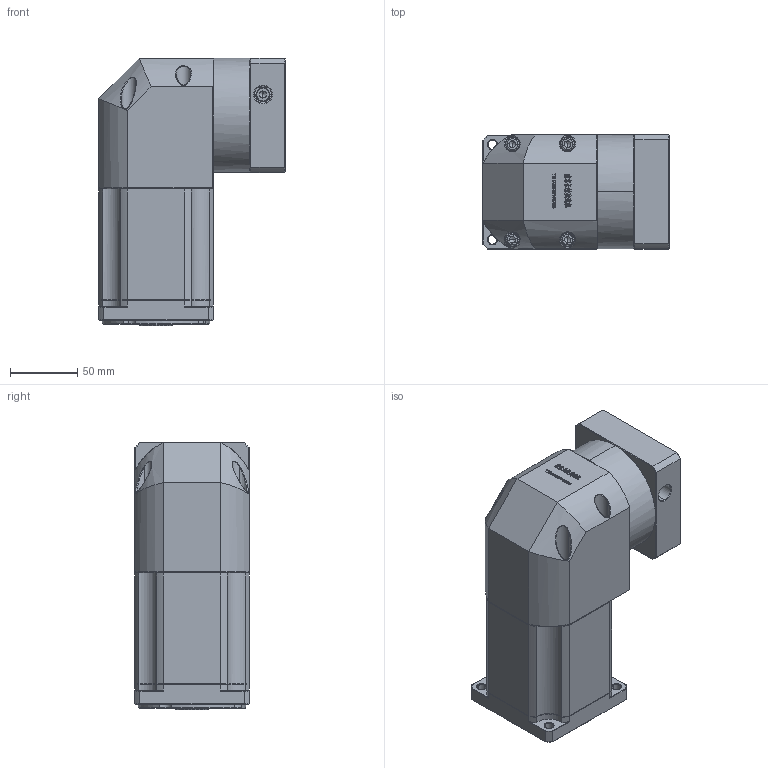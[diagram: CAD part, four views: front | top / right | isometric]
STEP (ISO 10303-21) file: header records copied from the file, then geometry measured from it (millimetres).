
FILE_DESCRIPTION (( 'STEP AP214' ), '1' );
FILE_NAME ('ZBR90-K15-L3-19-80-100-M6.STEP', '2022-05-07T14:46:19', ( '' ), ( 'Microsoft' ), 'SwSTEP 2.0', 'SolidWorks 2016', '' );
FILE_SCHEMA (( 'AUTOMOTIVE_DESIGN' ));
Length unit declared in the file: millimetre
Products named in the file (1): ZBR90-K15-L3-19-80-100-M6
Bounding box: 138.6 x 85 x 199 mm (x, y, z)
Volume: 1476252.3 mm3; surface area: 143922.1 mm2
Topology: 5 solids, 5 shells, 2949 faces, 7812 edges, 4998 vertices
Faces by surface type: plane 1568, bspline 596, cylinder 411, cone 350, torus 24
Entity records: 157567 total; most frequent: CARTESIAN_POINT 56635, ORIENTED_EDGE 15552, DIRECTION 11908, EDGE_CURVE 7776, VECTOR 5220, LINE 5220, VERTEX_POINT 4998, AXIS2_PLACEMENT_3D 3344
